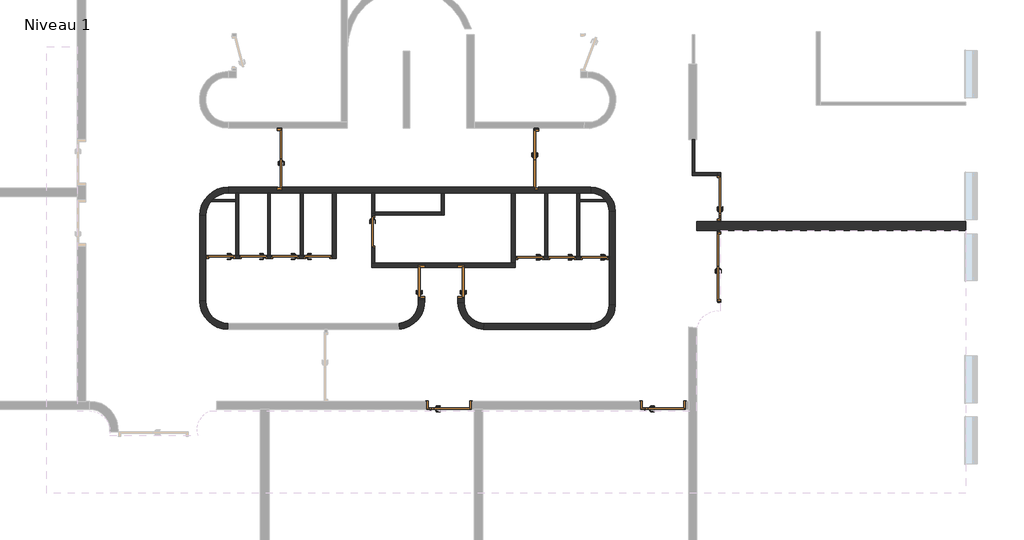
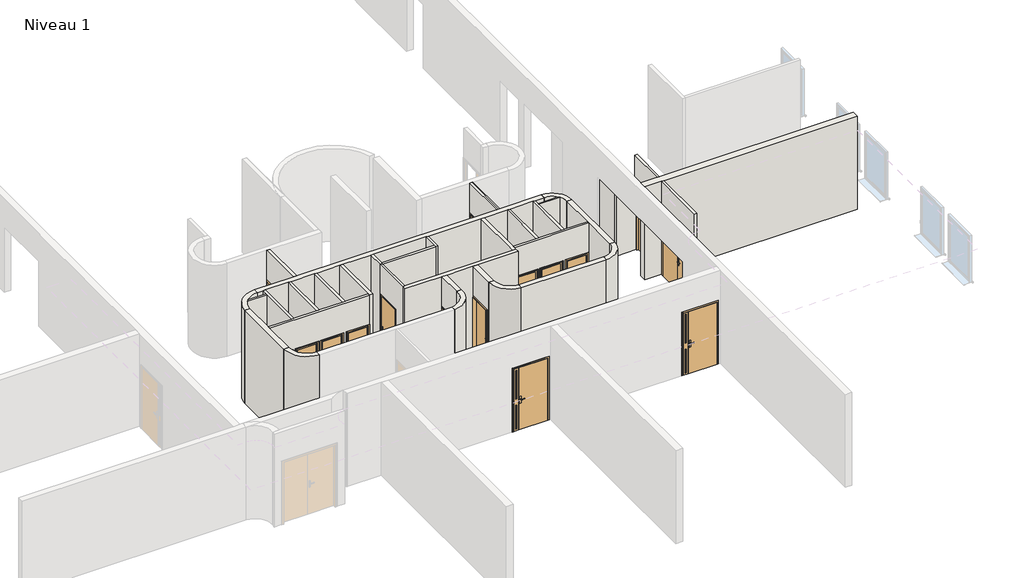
# One storey, part 2 of 5: 34 walls, 16 doors.
"""IFC4 building model written with IfcOpenShell, lengths in millimetres."""

from ifc_helpers import new_model, si_unit, point, frame, frame_2d, origin, place, context, project, spatial, polyline, circle_curve, trimmed, segment, composite_curve, outline, extrude, faceted_brep, transform, mapped, element, save
from ifc_brep_helpers import plane_surface, revolved_surface, advanced_brep
from components import door_1f832047, door_0234ae46, door_bff29abf, door_50a5e481, door_d545ad62, door_1_10m_x_2_04m_5cb44dee, door_1_10m_x_2_04m_3b420d45, double_r_1_43m_x_2_04m_c23811d4, double_r_1_63m_x_2_04m_f0196d8f

model = new_model("IFC4")

# Units and contexts
model_context = context("Model", 3, world=origin())
ifc_project = project(units=[si_unit("LENGTHUNIT", "METRE", prefix="MILLI")], contexts=[model_context])

# Site, building, storey
site = spatial("IfcSite", under=ifc_project)
building = spatial("IfcBuilding", under=site)
storey = spatial("IfcBuildingStorey", under=building, Name="Niveau 1", Elevation=4121.8727639)

# Doors
placement = place(None, origin())
door_shape = door_1f832047(model_context)
element("IfcDoor", 1, ObjectType="@_Int. Simple : @_PP (0.73m x 2.04m)", at=placement, inside=storey, context=model_context, shape_type="MappedRepresentation", body=[
    mapped(door_shape, transform((-9534.4059889, -11067.9401837, 4121.8727639), x_axis=(0.0, 1.0, 0.0), y_axis=(-1.0, 0.0, 0.0), z_axis=(0.0, 0.0, 1.0))),
])
door_2_shape = door_0234ae46(model_context)
element("IfcDoor", 2, ObjectType="@_Int. Simple : @_PP (0.73m x 2.04m)", at=placement, inside=storey, context=model_context, shape_type="MappedRepresentation", body=[
    mapped(door_2_shape, transform((-11686.951258, -9902.9402048, 4121.8727639), x_axis=(9.914124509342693e-09, -1.0, 0.0), y_axis=(1.0, 9.914124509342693e-09, 0.0), z_axis=(0.0, 0.0, 1.0))),
])
door_3_shape = door_bff29abf(model_context)
element("IfcDoor", 3, ObjectType="@_Int. Simple : @_PP (0.73m x 2.04m)", at=placement, inside=storey, context=model_context, shape_type="MappedRepresentation", body=[
    mapped(door_3_shape, transform((-10502.5633349, -11067.9401837, 4121.8727639), x_axis=(0.0, 1.0, 0.0), y_axis=(-1.0, 0.0, 0.0), z_axis=(0.0, 0.0, 1.0))),
])
door_4_shape = door_50a5e481(model_context)
element("IfcDoor", 4, ObjectType="@_Int. Simple : @_PP (0.63m x 2.04m)", at=placement, inside=storey, context=model_context, shape_type="MappedRepresentation", body=[
    mapped(door_4_shape, transform((-7874.989882, -10511.5679843, 4121.8727639), x_axis=(-1.0, 0.0, 0.0), y_axis=(0.0, -1.0, 0.0), z_axis=(0.0, 0.0, 1.0))),
])
element("IfcDoor", 5, ObjectType="@_Int. Simple : @_PP (0.63m x 2.04m)", at=placement, inside=storey, context=model_context, shape_type="MappedRepresentation", body=[
    mapped(door_4_shape, transform((-7094.0106611, -10511.5679843, 4121.8727639), x_axis=(-1.0, 0.0, 0.0), y_axis=(0.0, -1.0, 0.0), z_axis=(0.0, 0.0, 1.0))),
])
element("IfcDoor", 6, ObjectType="@_Int. Simple : @_PP (0.63m x 2.04m)", at=placement, inside=storey, context=model_context, shape_type="MappedRepresentation", body=[
    mapped(door_4_shape, transform((-6293.9999175, -10511.5679843, 4121.8727639), x_axis=(-1.0, 0.0, 0.0), y_axis=(0.0, -1.0, 0.0), z_axis=(0.0, 0.0, 1.0))),
])
element("IfcDoor", 7, ObjectType="@_Int. Simple : @_PP (0.63m x 2.04m)", at=placement, inside=storey, context=model_context, shape_type="MappedRepresentation", body=[
    mapped(door_4_shape, transform((-15459.9931353, -10489.7074645, 4121.8727639), x_axis=(-1.0, 0.0, 0.0), y_axis=(0.0, -1.0, 0.0), z_axis=(0.0, 0.0, 1.0))),
])
element("IfcDoor", 8, ObjectType="@_Int. Simple : @_PP (0.63m x 2.04m)", at=placement, inside=storey, context=model_context, shape_type="MappedRepresentation", body=[
    mapped(door_4_shape, transform((-14664.2475761, -10489.7074645, 4121.8727639), x_axis=(-1.0, 0.0, 0.0), y_axis=(0.0, -1.0, 0.0), z_axis=(0.0, 0.0, 1.0))),
])
element("IfcDoor", 9, ObjectType="@_Int. Simple : @_PP (0.63m x 2.04m)", at=placement, inside=storey, context=model_context, shape_type="MappedRepresentation", body=[
    mapped(door_4_shape, transform((-13884.4973372, -10489.7074645, 4121.8727639), x_axis=(-1.0, 0.0, 0.0), y_axis=(0.0, -1.0, 0.0), z_axis=(0.0, 0.0, 1.0))),
])
door_5_shape = door_d545ad62(model_context)
element("IfcDoor", 10, ObjectType="@_Int. Simple : @_PP (0.63m x 2.04m)", at=placement, inside=storey, context=model_context, shape_type="MappedRepresentation", body=[
    mapped(door_5_shape, transform((-13012.8227922, -10489.7074645, 4121.8727639), x_axis=(1.0, 0.0, 0.0), y_axis=(0.0, 1.0, 0.0), z_axis=(0.0, 0.0, 1.0))),
])
door_1_10m_x_2_04m_shape = door_1_10m_x_2_04m_5cb44dee(model_context)
element("IfcDoor", 11, ObjectType="Tierce  160 : 1.10m x 2.04m", at=placement, inside=storey, context=model_context, shape_type="MappedRepresentation", body=[
    mapped(door_1_10m_x_2_04m_shape, transform((-3200.019318, -9043.749432, 4121.8727639), x_axis=(0.0, -1.0, 0.0), y_axis=(1.0, 0.0, 0.0), z_axis=(0.0, 0.0, 1.0))),
])
door_1_10m_x_2_04m_2_shape = door_1_10m_x_2_04m_3b420d45(model_context)
element("IfcDoor", 12, ObjectType="Tierce  160 : 1.10m x 2.04m", at=placement, inside=storey, context=model_context, shape_type="MappedRepresentation", body=[
    mapped(door_1_10m_x_2_04m_2_shape, transform((-4573.9891744, -14129.1151398, 4121.8727639), x_axis=(-1.0, 0.0, 0.0), y_axis=(0.0, -1.0, 0.0), z_axis=(0.0, 0.0, 1.0))),
])
element("IfcDoor", 13, ObjectType="Tierce  160 : 1.10m x 2.04m", at=placement, inside=storey, context=model_context, shape_type="MappedRepresentation", body=[
    mapped(door_1_10m_x_2_04m_2_shape, transform((-9828.9891732, -14129.1151398, 4121.8727639), x_axis=(-1.0, 0.0, 0.0), y_axis=(0.0, -1.0, 0.0), z_axis=(0.0, 0.0, 1.0))),
])
double_r_1_43m_x_2_04m_shape = double_r_1_43m_x_2_04m_c23811d4(model_context)
element("IfcDoor", 14, ObjectType="Double (R) : 1.43m x 2.04m", at=placement, inside=storey, context=model_context, shape_type="MappedRepresentation", body=[
    mapped(double_r_1_43m_x_2_04m_shape, transform((-13983.9891737, -8079.6056823, 4121.8727639), x_axis=(0.0, -1.0, 0.0), y_axis=(1.0, 0.0, 0.0), z_axis=(0.0, 0.0, 1.0))),
])
element("IfcDoor", 15, ObjectType="Double (R) : 1.43m x 2.04m", at=placement, inside=storey, context=model_context, shape_type="MappedRepresentation", body=[
    mapped(double_r_1_43m_x_2_04m_shape, transform((-7683.9891738, -8093.3556823, 4121.8727639), x_axis=(0.0, 1.0, 0.0), y_axis=(-1.0, 0.0, 0.0), z_axis=(0.0, 0.0, 1.0))),
])
double_r_1_63m_x_2_04m_shape = double_r_1_63m_x_2_04m_f0196d8f(model_context)
element("IfcDoor", 16, ObjectType="Double (R) : 1.63m x 2.04m", at=placement, inside=storey, context=model_context, shape_type="MappedRepresentation", body=[
    mapped(double_r_1_63m_x_2_04m_shape, transform((-3200.019318, -10727.0853638, 4121.8727639), x_axis=(0.0, -1.0, 0.0), y_axis=(1.0, 0.0, 0.0), z_axis=(0.0, 0.0, 1.0))),
])

# Walls
element("IfcWall", 17, ObjectType="@_Générique - Int. 150 mm", at=placement, inside=storey, context=model_context, shape_type="Brep", body=[
    faceted_brep([(-5893.989169, -9371.2578601, 4121.8727639), (-5893.989169, -10476.5679843, 4121.8727639), (-5893.989169, -10546.5679843, 4121.8727639), (-5893.9891691, -11669.1151368, 4121.8727639), (-5893.9891691, -11669.1151368, 7167.3082742), (-5893.989169, -10546.5679843, 7167.3082742), (-5893.989169, -10476.5679843, 7167.3082742), (-5893.989169, -9371.2578601, 7167.3082742), (-5743.989169, -9371.2578601, 4121.8727639), (-5743.989169, -9371.2578601, 7167.3082742), (-5743.9891691, -11669.1151368, 7167.3082742), (-5743.9891691, -11669.1151368, 4121.8727639)], [[[0, 1, 2, 3, 4, 5, 6, 7]], [[8, 9, 10, 11]], [[3, 2, 1, 0, 8, 11]], [[4, 3, 11, 10]], [[0, 7, 9, 8]], [[7, 6, 5, 4, 10, 9]]]),
])
element("IfcWall", 18, ObjectType="@_Générique - Int. 150 mm", at=placement, inside=storey, context=model_context, shape_type="Brep", body=[
    faceted_brep([(-15943.9891684, -9471.2578591, 4121.8727639), (-15943.9891684, -11569.1151367, 4121.8727639), (-15943.9891684, -11569.1151367, 7167.3082742), (-15943.9891684, -9471.2578591, 7167.3082742), (-15793.9891684, -9471.2578591, 4121.8727639), (-15793.9891684, -9471.2578591, 7167.3082742), (-15793.9891684, -10454.7074645, 7167.3082742), (-15793.9891684, -10524.7074645, 7167.3082742), (-15793.9891684, -11569.1151367, 7167.3082742), (-15793.9891684, -11569.1151367, 4121.8727639), (-15793.9891684, -10524.7074645, 4121.8727639), (-15793.9891684, -10454.7074645, 4121.8727639)], [[[0, 1, 2, 3]], [[4, 5, 6, 7, 8, 9, 10, 11]], [[1, 0, 4, 11, 10, 9]], [[2, 1, 9, 8]], [[0, 3, 5, 4]], [[3, 2, 8, 7, 6, 5]]]),
])
element("IfcWall", 19, ObjectType="@_Générique - Int. 100 mm", at=placement, inside=storey, context=model_context, shape_type="SweptSolid", body=[
    extrude(outline(polyline([(-8771.2578592, 7167.3082742), (-7329.1151392, 7167.3082742), (-7329.1151392, 4121.8727639), (-7329.6056823, 4121.8727639), (-7329.6056823, 6196.8727639), (-8771.2578592, 6196.8727639), (-8771.2578592, 7167.3082742)])), frame((-14033.9891737, 0.0, 0.0), z_axis=(1.0, 0.0, 0.0), x_axis=(0.0, 1.0, 0.0)), (0.0, 0.0, 1.0), 100.0),
])
element("IfcWall", 20, ObjectType="@_Générique - Int. 100 mm", at=placement, inside=storey, context=model_context, shape_type="Brep", body=[
    faceted_brep([(-7733.9891738, -8771.2578604, 7167.3082742), (-7733.9891738, -7329.1151397, 7167.3082742), (-7733.9891738, -7329.1151397, 4121.8727639), (-7733.9891738, -7343.3556823, 4121.8727639), (-7733.9891738, -7343.3556823, 6196.8727639), (-7733.9891738, -8771.2578604, 6196.8727639), (-7633.9891738, -7329.1151397, 4121.8727639), (-7633.9891738, -7329.1151397, 7167.3082742), (-7633.9891738, -8771.2578604, 7167.3082742), (-7633.9891738, -8771.2578604, 6196.8727639), (-7633.9891738, -7343.3556823, 6196.8727639), (-7633.9891738, -7343.3556823, 4121.8727639), (-7675.9891738, -8771.2578604, 7167.3082742), (-7675.9891738, -7329.1151397, 7167.3082742)], [[[0, 1, 2, 3, 4, 5]], [[6, 7, 8, 9, 10, 11]], [[2, 6, 11, 3]], [[12, 0, 5, 9, 8]], [[2, 1, 13, 7, 6]], [[10, 4, 3, 11]], [[4, 10, 9, 5]], [[1, 0, 12, 13]], [[8, 7, 13, 12]]]),
])
element("IfcWall", 21, ObjectType="@_Générique - Int. 70 mm", at=placement, inside=storey, context=model_context, shape_type="SolidModel", body=[
    faceted_brep([(-3235.019318, -8418.749432, 7167.3082742), (-3235.019318, -8418.749432, 6221.8727639), (-3235.019318, -8418.749432, 4121.8727639), (-3235.019318, -8483.749432, 4121.8727639), (-3235.019318, -8483.749432, 6196.8727639), (-3235.019318, -9603.749432, 6196.8727639), (-3235.019318, -9603.749432, 4121.8727639), (-3235.019318, -9613.749432, 4121.8727639), (-3235.019318, -9613.749432, 7167.3082742), (-3165.019318, -8418.749432, 4121.8727639), (-3165.019318, -8418.749432, 7167.3082742), (-3165.019318, -9613.749432, 7167.3082742), (-3165.019318, -9613.749432, 4121.8727639), (-3165.019318, -9603.749432, 4121.8727639), (-3165.019318, -9603.749432, 6196.8727639), (-3165.019318, -8483.749432, 6196.8727639), (-3165.019318, -8483.749432, 4121.8727639)], [[[0, 1, 2, 3, 4, 5, 6, 7, 8]], [[9, 10, 11, 12, 13, 14, 15, 16]], [[2, 9, 16, 3]], [[6, 13, 12, 7]], [[10, 0, 8, 11]], [[2, 1, 0, 10, 9]], [[8, 7, 12, 11]], [[5, 14, 13, 6]], [[14, 5, 4, 15]], [[15, 4, 3, 16]]]),
    advanced_brep(
    [(-3235.019318, -11606.8648587, 4121.8727639), (-3235.019318, -11606.8648587, 7167.3082742), (-3235.019318, -9833.749432, 7167.3082742), (-3235.019318, -9833.749432, 4121.8727639), (-3235.019318, -9877.0853638, 4121.8727639), (-3235.019318, -9877.0853638, 6196.8727639), (-3235.019318, -11577.0853638, 6196.8727639), (-3235.019318, -11577.0853638, 4121.8727639), (-3165.019318, -11608.8816811, 7167.3082742), (-3165.019318, -11608.8816811, 4121.8727639), (-3165.019318, -11577.0853638, 4121.8727639), (-3165.019318, -11577.0853638, 6196.8727639), (-3165.019318, -9877.0853638, 6196.8727639), (-3165.019318, -9877.0853638, 4121.8727639), (-3165.019318, -9833.749432, 4121.8727639), (-3165.019318, -9833.749432, 7167.3082742)],
    [
        (0, 1),
        (1, 2),
        (2, 3),
        (3, 4),
        (4, 5),
        (5, 6),
        (6, 7),
        (7, 0),
        (8, 9),
        (9, 10),
        (10, 11),
        (11, 12),
        (12, 13),
        (13, 14),
        (14, 15),
        (15, 8),
        (9, 0, circle_curve(frame((-3221.1378545, -12340.8568076, 4121.8727639), z_axis=(0.0, 0.0, 1.0), x_axis=(0.40959070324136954, 0.912269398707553, 0.0)), 734.1232022)),
        (7, 10),
        (13, 4),
        (3, 14),
        (1, 8, circle_curve(frame((-3221.1378545, -12340.8568076, 7167.3082742), z_axis=(0.0, 0.0, -1.0), x_axis=(0.40959070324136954, 0.912269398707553, 0.0)), 734.1232022)),
        (15, 2),
        (6, 11),
        (5, 12),
    ],
    [
        plane_surface(frame((-3235.019318, -15771.0969841, 4121.8727639), z_axis=(-1.0, 0.0, 0.0), x_axis=(0.0, -1.0, 0.0))),
        plane_surface(frame((-3165.019318, -15771.0969841, 4121.8727639), z_axis=(1.0, 0.0, 0.0), x_axis=(0.0, 1.0, 0.0))),
        plane_surface(frame((-3235.019318, -8453.749432, 4121.8727639), z_axis=(0.0, 0.0, -1.0), x_axis=(1.0, 0.0, 0.0))),
        plane_surface(frame((-25618.9891748, 10570.8848592, 7167.3082742), z_axis=(0.0, 0.0, 1.0), x_axis=(0.0, 1.0, 0.0))),
        plane_surface(frame((2194.1648553, -9833.749433, 4121.8727639), z_axis=(1.8719055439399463e-10, 1.0, 0.0), x_axis=(1.0, -1.8719055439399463e-10, 0.0))),
        revolved_surface(polyline([(-2920.4478158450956, -11671.138675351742, 7167.308274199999), (-2920.4478158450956, -11671.138675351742, 4121.8727639)]), (-3221.1378545, -12340.8568076, 4121.8727639), (0.0, 0.0, 0.9999999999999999)),
        plane_surface(frame((-4759.019318, -11577.0853638, 4121.8727639), z_axis=(0.0, 1.0, 0.0), x_axis=(1.0, 0.0, 0.0))),
        plane_surface(frame((-4759.019318, -11577.0853638, 6196.8727639), z_axis=(0.0, 0.0, -1.0), x_axis=(1.0, 0.0, 0.0))),
        plane_surface(frame((-4759.019318, -9877.0853638, 6196.8727639), z_axis=(0.0, -1.0, 0.0), x_axis=(1.0, 0.0, 0.0))),
    ],
    [
        (0, [[1, 2, 3, 4, 5, 6, 7, 8]]),
        (1, [[9, 10, 11, 12, 13, 14, 15, 16]]),
        (2, [[17, -8, 18, -10]]),
        (2, [[19, -4, 20, -14]]),
        (3, [[21, -16, 22, -2]]),
        (4, [[-3, -22, -15, -20]]),
        (5, [[-1, -17, -9, -21]]),
        (6, [[23, -11, -18, -7]]),
        (7, [[-23, -6, 24, -12]]),
        (8, [[-24, -5, -19, -13]]),
    ],
),
])
element("IfcWall", 22, ObjectType="@_Générique - Int. 120 mm", at=placement, inside=storey, context=model_context, shape_type="Brep", body=[
    faceted_brep([(-8204.989882, -10632.9401837, 4121.8727639), (-8304.989882, -10632.9401837, 4121.8727639), (-11651.9512507, -10632.9401837, 4121.8727639), (-11721.9512507, -10632.9401837, 4121.8727639), (-11721.9512507, -10632.9401837, 7167.3082742), (-11651.9512507, -10632.9401837, 7167.3082742), (-8304.989882, -10632.9401837, 7167.3082742), (-8204.989882, -10632.9401837, 7167.3082742), (-8204.989882, -10752.9401837, 7167.3082742), (-9459.4059889, -10752.9401837, 7167.3082742), (-9609.4059889, -10752.9401837, 7167.3082742), (-10427.5633349, -10752.9401837, 7167.3082742), (-10577.5633349, -10752.9401837, 7167.3082742), (-11721.9512495, -10752.9401837, 7167.3082742), (-11721.9512495, -10752.9401837, 4121.8727639), (-10577.5633349, -10752.9401837, 4121.8727639), (-10577.5633349, -10752.9401837, 6196.8727639), (-10427.5633349, -10752.9401837, 6196.8727639), (-10427.5633349, -10752.9401837, 4121.8727639), (-9609.4059889, -10752.9401837, 4121.8727639), (-9609.4059889, -10752.9401837, 6196.8727639), (-9459.4059889, -10752.9401837, 6196.8727639), (-9459.4059889, -10752.9401837, 4121.8727639), (-8204.989882, -10752.9401837, 4121.8727639), (-9459.4059889, -10702.9401837, 4121.8727639), (-9609.4059889, -10702.9401837, 4121.8727639), (-10427.5633349, -10702.9401837, 4121.8727639), (-10577.5633349, -10702.9401837, 4121.8727639), (-10427.5633349, -10702.9401837, 6196.8727639), (-10577.5633349, -10702.9401837, 6196.8727639), (-9459.4059889, -10702.9401837, 6196.8727639), (-9609.4059889, -10702.9401837, 6196.8727639)], [[[0, 1, 2, 3, 4, 5, 6, 7]], [[8, 9, 10, 11, 12, 13, 14, 15, 16, 17, 18, 19, 20, 21, 22, 23]], [[3, 2, 1, 0, 23, 22, 24, 25, 19, 18, 26, 27, 15, 14]], [[7, 6, 5, 4, 13, 12, 11, 10, 9, 8]], [[0, 7, 8, 23]], [[28, 26, 18, 17]], [[27, 29, 16, 15]], [[29, 28, 17, 16]], [[30, 24, 22, 21]], [[25, 31, 20, 19]], [[31, 30, 21, 20]], [[24, 30, 31, 25]], [[26, 28, 29, 27]], [[4, 3, 14, 13]]]),
])
element("IfcWall", 23, ObjectType="@_Générique - Int. 70 mm", at=placement, inside=storey, context=model_context, shape_type="Brep", body=[
    faceted_brep([(-11651.9512627, -9420.8638268, 4121.8727639), (-11651.9512627, -9420.8638268, 7167.3082742), (-11651.9512624, -9455.8638272, 7167.3082742), (-11651.9512507, -10632.9401837, 7167.3082742), (-11651.9512507, -10632.9401837, 4121.8727639), (-11651.9512543, -10267.9402045, 4121.8727639), (-11651.9512543, -10267.9402045, 6196.8727639), (-11651.9512623, -9467.9402045, 6196.8727639), (-11651.9512623, -9467.9402045, 4121.8727639), (-11651.9512624, -9455.8638272, 4121.8727639), (-11721.9512627, -9420.8638275, 7167.3082742), (-11721.9512627, -9420.8638275, 4121.8727639), (-11721.9512623, -9467.9402052, 4121.8727639), (-11721.9512623, -9467.9402052, 6196.8727639), (-11721.9512543, -10267.9402052, 6196.8727639), (-11721.9512543, -10267.9402052, 4121.8727639), (-11721.9512507, -10632.9401837, 4121.8727639), (-11721.9512507, -10632.9401837, 7167.3082742)], [[[0, 1, 2, 3, 4, 5, 6, 7, 8, 9]], [[10, 11, 12, 13, 14, 15, 16, 17]], [[11, 0, 9, 8, 12]], [[4, 16, 15, 5]], [[1, 0, 11, 10]], [[3, 2, 1, 10, 17]], [[4, 3, 17, 16]], [[14, 6, 5, 15]], [[7, 13, 12, 8]], [[13, 7, 6, 14]]]),
])
element("IfcWall", 24, ObjectType="@_Générique - Int. 100 mm", at=placement, inside=storey, context=model_context, shape_type="Brep", body=[
    faceted_brep([(-8204.989882, -10632.9401837, 4121.8727639), (-8204.989882, -10546.5679843, 4121.8727639), (-8204.989882, -10476.5679843, 4121.8727639), (-8204.989882, -8921.2578603, 4121.8727639), (-8204.989882, -8921.2578603, 7167.3082742), (-8204.989882, -10476.5679843, 7167.3082742), (-8204.989882, -10546.5679843, 7167.3082742), (-8204.989882, -10632.9401837, 7167.3082742), (-8304.989882, -10632.9401837, 4121.8727639), (-8304.989882, -10632.9401837, 7167.3082742), (-8304.989882, -8921.2578603, 7167.3082742), (-8304.989882, -8921.2578603, 4121.8727639)], [[[0, 1, 2, 3, 4, 5, 6, 7]], [[8, 9, 10, 11]], [[3, 2, 1, 0, 8, 11]], [[7, 6, 5, 4, 10, 9]], [[0, 7, 9, 8]], [[4, 3, 11, 10]]]),
])
element("IfcWall", 25, ObjectType="@_Générique - Int. 100 mm", at=placement, inside=storey, context=model_context, shape_type="Brep", body=[
    faceted_brep([(-12590.898471, -10524.7074645, 4121.8727639), (-12590.8984869, -8921.2578595, 4121.8727639), (-12590.8984869, -8921.2578595, 7167.3082742), (-12590.898471, -10524.7074645, 7167.3082742), (-12690.898471, -10524.7074645, 4121.8727639), (-12690.898471, -10524.7074645, 7167.3082742), (-12690.8984717, -10454.7074645, 7167.3082742), (-12690.8984869, -8921.2578595, 7167.3082742), (-12690.8984869, -8921.2578595, 4121.8727639), (-12690.8984717, -10454.7074645, 4121.8727639)], [[[0, 1, 2, 3]], [[4, 5, 6, 7, 8, 9]], [[1, 0, 4, 9, 8]], [[3, 2, 7, 6, 5]], [[2, 1, 8, 7]], [[0, 3, 5, 4]]]),
])
element("IfcWall", 26, ObjectType="@_Générique - Int. 70 mm", at=placement, inside=storey, context=model_context, shape_type="SweptSolid", body=[
    extrude(outline(polyline([(-7478.5169073, -10476.5679843), (-7478.5169073, -8921.2578605), (-7408.5169073, -8921.2578605), (-7408.5169073, -10476.5679843), (-7478.5169073, -10476.5679843)])), frame((0.0, 0.0, 4121.8727639), z_axis=(0.0, 0.0, 1.0), x_axis=(1.0, 0.0, 0.0)), (0.0, 0.0, 1.0), 3045.4355104),
])
element("IfcWall", 27, ObjectType="@_Générique - Int. 70 mm", at=placement, inside=storey, context=model_context, shape_type="SweptSolid", body=[
    extrude(outline(polyline([(-6694.0106611, -10476.5679843), (-6694.0106611, -8921.2578606), (-6624.0106611, -8921.2578606), (-6624.0106611, -10476.5679843), (-6694.0106611, -10476.5679843)])), frame((0.0, 0.0, 4121.8727639), z_axis=(0.0, 0.0, 1.0), x_axis=(1.0, 0.0, 0.0)), (0.0, 0.0, 1.0), 3045.4355104),
])
element("IfcWall", 28, ObjectType="@_Générique - Int. 70 mm", at=placement, inside=storey, context=model_context, shape_type="Brep", body=[
    faceted_brep([(-5893.989169, -10546.5679843, 7167.3082742), (-8204.989882, -10546.5679843, 7167.3082742), (-8204.989882, -10546.5679843, 4121.8727639), (-8189.989882, -10546.5679843, 4121.8727639), (-8189.989882, -10546.5679843, 6196.8727639), (-7489.989882, -10546.5679843, 6196.8727639), (-7489.989882, -10546.5679843, 4121.8727639), (-7409.0106611, -10546.5679843, 4121.8727639), (-7409.0106611, -10546.5679843, 6196.8727639), (-6709.0106611, -10546.5679843, 6196.8727639), (-6709.0106611, -10546.5679843, 4121.8727639), (-6608.9999175, -10546.5679843, 4121.8727639), (-6608.9999175, -10546.5679843, 6196.8727639), (-5908.9999175, -10546.5679843, 6196.8727639), (-5908.9999175, -10546.5679843, 4121.8727639), (-5893.989169, -10546.5679843, 4121.8727639), (-8204.989882, -10476.5679843, 7167.3082742), (-7478.5169073, -10476.5679843, 7167.3082742), (-7408.5169073, -10476.5679843, 7167.3082742), (-6694.0106611, -10476.5679843, 7167.3082742), (-6624.0106611, -10476.5679843, 7167.3082742), (-5893.989169, -10476.5679843, 7167.3082742), (-5893.989169, -10476.5679843, 4121.8727639), (-5908.9999175, -10476.5679843, 4121.8727639), (-5908.9999175, -10476.5679843, 6196.8727639), (-6608.9999175, -10476.5679843, 6196.8727639), (-6608.9999175, -10476.5679843, 4121.8727639), (-6624.0106611, -10476.5679843, 4121.8727639), (-6694.0106611, -10476.5679843, 4121.8727639), (-6709.0106611, -10476.5679843, 4121.8727639), (-6709.0106611, -10476.5679843, 6196.8727639), (-7409.0106611, -10476.5679843, 6196.8727639), (-7409.0106611, -10476.5679843, 4121.8727639), (-7478.5169073, -10476.5679843, 4121.8727639), (-7489.989882, -10476.5679843, 4121.8727639), (-7489.989882, -10476.5679843, 6196.8727639), (-8189.989882, -10476.5679843, 6196.8727639), (-8189.989882, -10476.5679843, 4121.8727639), (-8204.989882, -10476.5679843, 4121.8727639)], [[[0, 1, 2, 3, 4, 5, 6, 7, 8, 9, 10, 11, 12, 13, 14, 15]], [[16, 17, 18, 19, 20, 21, 22, 23, 24, 25, 26, 27, 28, 29, 30, 31, 32, 33, 34, 35, 36, 37, 38]], [[2, 38, 37, 3]], [[6, 34, 33, 32, 7]], [[10, 29, 28, 27, 26, 11]], [[22, 15, 14, 23]], [[1, 0, 21, 20, 19, 18, 17, 16]], [[2, 1, 16, 38]], [[0, 15, 22, 21]], [[4, 3, 37, 36]], [[5, 4, 36, 35]], [[6, 5, 35, 34]], [[8, 7, 32, 31]], [[9, 8, 31, 30]], [[10, 9, 30, 29]], [[25, 12, 11, 26]], [[12, 25, 24, 13]], [[13, 24, 23, 14]]]),
])
element("IfcWall", 29, ObjectType="@_Générique - Int. 70 mm", at=placement, inside=storey, context=model_context, shape_type="Brep", body=[
    faceted_brep([(-10015.0633349, -8921.25786, 4121.8727639), (-10015.0633349, -9385.8638272, 4121.8727639), (-10015.0633349, -9455.8638272, 4121.8727639), (-10015.0633349, -9455.8638272, 7167.3082742), (-10015.0633349, -9385.8638272, 7167.3082742), (-10015.0633349, -8921.25786, 7167.3082742), (-9945.0633349, -8921.25786, 4121.8727639), (-9945.0633349, -8921.25786, 7167.3082742), (-9945.0633349, -9455.8638272, 7167.3082742), (-9945.0633349, -9455.8638272, 4121.8727639)], [[[0, 1, 2, 3, 4, 5]], [[6, 7, 8, 9]], [[2, 1, 0, 6, 9]], [[5, 4, 3, 8, 7]], [[0, 5, 7, 6]], [[3, 2, 9, 8]]]),
])
element("IfcWall", 30, ObjectType="@_Générique - Int. 70 mm", at=placement, inside=storey, context=model_context, shape_type="Brep", body=[
    faceted_brep([(-11651.9512624, -9455.8638272, 4121.8727639), (-10015.0633349, -9455.8638272, 4121.8727639), (-10015.0633349, -9455.8638272, 7167.3082742), (-11651.9512624, -9455.8638272, 7167.3082742), (-11651.9512631, -9385.8638272, 4121.8727639), (-11651.9512631, -9385.8638272, 7167.3082742), (-10015.0633349, -9385.8638272, 7167.3082742), (-10015.0633349, -9385.8638272, 4121.8727639), (-11651.9512627, -9420.8638268, 4121.8727639), (-11651.9512627, -9420.8638268, 7167.3082742)], [[[0, 1, 2, 3]], [[4, 5, 6, 7]], [[1, 0, 8, 4, 7]], [[3, 2, 6, 5, 9]], [[2, 1, 7, 6]], [[0, 3, 9, 5, 4, 8]]]),
])
element("IfcWall", 31, ObjectType="@_Générique - Int. 70 mm", at=placement, inside=storey, context=model_context, shape_type="Brep", body=[
    faceted_brep([(-14209.2475617, -10454.7074645, 4121.8727639), (-14209.2475769, -8921.2578592, 4121.8727639), (-14209.2475769, -8921.2578592, 7167.3082742), (-14209.2475617, -10454.7074645, 7167.3082742), (-14279.2475617, -10454.7074645, 4121.8727639), (-14279.2475617, -10454.7074645, 6196.8727639), (-14279.2475617, -10454.7074645, 7167.3082742), (-14279.2475769, -8921.2578592, 7167.3082742), (-14279.2475769, -8921.2578592, 4121.8727639)], [[[0, 1, 2, 3]], [[4, 5, 6, 7, 8]], [[1, 0, 4, 8]], [[3, 2, 7, 6]], [[2, 1, 8, 7]], [[0, 3, 6, 5, 4]]]),
])
element("IfcWall", 32, ObjectType="@_Générique - Int. 70 mm", at=placement, inside=storey, context=model_context, shape_type="Brep", body=[
    faceted_brep([(-12690.898471, -10524.7074645, 7167.3082742), (-15793.9891684, -10524.7074645, 7167.3082742), (-15793.9891684, -10524.7074645, 4121.8727639), (-15774.9931353, -10524.7074645, 4121.8727639), (-15774.9931353, -10524.7074645, 6196.8727639), (-15074.9931353, -10524.7074645, 6196.8727639), (-15074.9931353, -10524.7074645, 4121.8727639), (-14979.2475761, -10524.7074645, 4121.8727639), (-14979.2475761, -10524.7074645, 6196.8727639), (-14279.2475761, -10524.7074645, 6196.8727639), (-14279.2475761, -10524.7074645, 4121.8727639), (-14199.4973372, -10524.7074645, 4121.8727639), (-14199.4973372, -10524.7074645, 6196.8727639), (-13499.4973372, -10524.7074645, 6196.8727639), (-13499.4973372, -10524.7074645, 4121.8727639), (-13397.8227922, -10524.7074645, 4121.8727639), (-13397.8227922, -10524.7074645, 6196.8727639), (-12697.8227922, -10524.7074645, 6196.8727639), (-12697.8227922, -10524.7074645, 4121.8727639), (-12690.898471, -10524.7074645, 4121.8727639), (-15793.9891684, -10454.7074645, 7167.3082742), (-15059.7470838, -10454.7074645, 7167.3082742), (-14989.7470838, -10454.7074645, 7167.3082742), (-14279.2475617, -10454.7074645, 7167.3082742), (-14209.2475617, -10454.7074645, 7167.3082742), (-13474.7470838, -10454.7074645, 7167.3082742), (-13404.7470838, -10454.7074645, 7167.3082742), (-12690.8984717, -10454.7074645, 7167.3082742), (-12690.8984717, -10454.7074645, 4121.8727639), (-12697.8227922, -10454.7074645, 4121.8727639), (-12697.8227922, -10454.7074645, 6196.8727639), (-13397.8227922, -10454.7074645, 6196.8727639), (-13397.8227922, -10454.7074645, 4121.8727639), (-13404.7470838, -10454.7074645, 4121.8727639), (-13474.7470838, -10454.7074645, 4121.8727639), (-13499.4973372, -10454.7074645, 4121.8727639), (-13499.4973372, -10454.7074645, 6196.8727639), (-14199.4973372, -10454.7074645, 6196.8727639), (-14199.4973372, -10454.7074645, 4121.8727639), (-14209.2475617, -10454.7074645, 4121.8727639), (-14279.2475761, -10454.7074645, 4121.8727639), (-14279.2475761, -10454.7074645, 6196.8727639), (-14979.2475761, -10454.7074645, 6196.8727639), (-14979.2475761, -10454.7074645, 4121.8727639), (-14989.7470838, -10454.7074645, 4121.8727639), (-15059.7470838, -10454.7074645, 4121.8727639), (-15074.9931353, -10454.7074645, 4121.8727639), (-15074.9931353, -10454.7074645, 6196.8727639), (-15774.9931353, -10454.7074645, 6196.8727639), (-15774.9931353, -10454.7074645, 4121.8727639), (-15793.9891684, -10454.7074645, 4121.8727639)], [[[0, 1, 2, 3, 4, 5, 6, 7, 8, 9, 10, 11, 12, 13, 14, 15, 16, 17, 18, 19]], [[20, 21, 22, 23, 24, 25, 26, 27, 28, 29, 30, 31, 32, 33, 34, 35, 36, 37, 38, 39, 40, 41, 42, 43, 44, 45, 46, 47, 48, 49, 50]], [[28, 19, 18, 29]], [[6, 46, 45, 44, 43, 7]], [[10, 40, 39, 38, 11]], [[14, 35, 34, 33, 32, 15]], [[2, 50, 49, 3]], [[1, 0, 27, 26, 25, 24, 23, 22, 21, 20]], [[2, 1, 20, 50]], [[0, 19, 28, 27]], [[48, 4, 3, 49]], [[4, 48, 47, 5]], [[5, 47, 46, 6]], [[42, 8, 7, 43]], [[8, 42, 41, 9]], [[9, 41, 40, 10]], [[12, 11, 38, 37]], [[13, 12, 37, 36]], [[14, 13, 36, 35]], [[17, 30, 29, 18]], [[30, 17, 16, 31]], [[31, 16, 15, 32]]]),
])
element("IfcWall", 33, ObjectType="@_Générique - Int. 150 mm", at=placement, inside=storey, context=model_context, shape_type="SweptSolid", body=[
    extrude(outline(composite_curve([segment(polyline([(-11053.2032702, -12269.1151369), (-11059.3852226, -12119.1151369)]), True, "CONTINUOUS"), segment(trimmed(circle_curve(frame_2d((-11105.8851062, -11591.1589258)), 530.0), [point((-11059.3852226, -12119.1151369))], [point((-10577.5633349, -11549.0150535))], True, "CARTESIAN"), True, "CONTINUOUS"), segment(polyline([(-10577.5633349, -11549.0150535), (-10427.5633349, -11543.4140351)]), True, "CONTINUOUS"), segment(trimmed(circle_curve(frame_2d((-11105.8851062, -11591.1589258)), 680.0), [point((-10427.5633349, -11543.4140351))], [point((-11053.2032702, -12269.1151369))], False, "CARTESIAN"), True, "CONTINUOUS")], self_intersect=False)), frame((0.0, 0.0, 4121.8727639), z_axis=(0.0, 0.0, 1.0), x_axis=(1.0, 0.0, 0.0)), (0.0, 0.0, 1.0), 3045.4355104),
])
element("IfcWall", 34, ObjectType="@_Générique - Int. 150 mm", at=placement, inside=storey, context=model_context, shape_type="SweptSolid", body=[
    extrude(outline(composite_curve([segment(trimmed(circle_curve(frame_2d((-8929.2415636, -11591.1589258)), 530.0), [point((-9458.9349587, -11609.1841084))], [point((-8975.7414348, -12119.115138))], True, "CARTESIAN"), True, "CONTINUOUS"), segment(polyline([(-8975.7414348, -12119.115138), (-8981.9233856, -12269.115138)]), True, "CONTINUOUS"), segment(trimmed(circle_curve(frame_2d((-8929.2415636, -11591.1589258)), 680.0), [point((-8981.9233856, -12269.115138))], [point((-9608.8481837, -11614.2855752))], False, "CARTESIAN"), True, "CONTINUOUS"), segment(polyline([(-9608.8481837, -11614.2855752), (-9569.3121062, -11612.9401837), (-9459.4059889, -11612.9401837), (-9459.4059889, -11609.2001373), (-9458.9349587, -11609.1841084)]), True, "CONTINUOUS")], self_intersect=False)), frame((0.0, 0.0, 4121.8727639), z_axis=(0.0, 0.0, 1.0), x_axis=(1.0, 0.0, 0.0)), (0.0, 0.0, 1.0), 3045.4355104),
])
element("IfcWall", 35, ObjectType="@_Générique - Int. 70 mm", at=placement, inside=storey, context=model_context, shape_type="SweptSolid", body=[
    extrude(outline(polyline([(-13404.747099, -8921.2578594), (-13404.7470838, -10454.7074645), (-13474.7470838, -10454.7074645), (-13474.747099, -8921.2578593), (-13404.747099, -8921.2578594)])), frame((0.0, 0.0, 4121.8727639), z_axis=(0.0, 0.0, 1.0), x_axis=(1.0, 0.0, 0.0)), (0.0, 0.0, 1.0), 3045.4355104),
])
element("IfcWall", 36, ObjectType="@_Générique - Int. 70 mm", at=placement, inside=storey, context=model_context, shape_type="SweptSolid", body=[
    extrude(outline(polyline([(-14989.747099, -8921.257859), (-14989.7470838, -10454.7074645), (-15059.7470838, -10454.7074645), (-15059.747099, -8921.257859), (-14989.747099, -8921.257859)])), frame((0.0, 0.0, 4121.8727639), z_axis=(0.0, 0.0, 1.0), x_axis=(1.0, 0.0, 0.0)), (0.0, 0.0, 1.0), 3045.4355104),
])
element("IfcWall", 37, ObjectType="@_Générique - Int. 50 mm", at=placement, inside=storey, context=model_context, shape_type="SweptSolid", body=[
    extrude(outline(composite_curve([segment(polyline([(-5964.9770667, -9128.6680289), (-6624.0106611, -9128.6680289), (-6624.0106611, -9078.6680289), (-6002.0956322, -9078.6680289)]), True, "CONTINUOUS"), segment(trimmed(circle_curve(frame_2d((-6343.9891685, -9371.2578601)), 449.9999994), [point((-6002.0956322, -9078.6680289))], [point((-5964.9770667, -9128.6680289))], False, "CARTESIAN"), True, "CONTINUOUS")], self_intersect=False)), frame((0.0, 0.0, 4121.8727639), z_axis=(0.0, 0.0, 1.0), x_axis=(1.0, 0.0, 0.0)), (0.0, 0.0, 1.0), 3045.4355104),
])
element("IfcWall", 38, ObjectType="@_Générique - Int. 50 mm", at=placement, inside=storey, context=model_context, shape_type="SweptSolid", body=[
    extrude(outline(composite_curve([segment(polyline([(-15059.747097, -9128.6680289), (-15674.2590929, -9128.6680289)]), True, "CONTINUOUS"), segment(trimmed(circle_curve(frame_2d((-15243.9891679, -9471.2578591)), 550.0), [point((-15674.2590929, -9128.6680289))], [point((-15629.1816202, -9078.6680289))], False, "CARTESIAN"), True, "CONTINUOUS"), segment(polyline([(-15629.1816202, -9078.6680289), (-15059.7470975, -9078.6680289), (-15059.747097, -9128.6680289)]), True, "CONTINUOUS")], self_intersect=False)), frame((0.0, 0.0, 4121.8727639), z_axis=(0.0, 0.0, 1.0), x_axis=(1.0, 0.0, 0.0)), (0.0, 0.0, 1.0), 3045.4355104),
])
element("IfcWall", 39, ObjectType="@_Générique - Int. 70 mm", at=placement, inside=storey, context=model_context, shape_type="Brep", body=[
    faceted_brep([(-11651.9512627, -9420.8638268, 4121.8727639), (-11651.9512631, -9385.8638272, 4121.8727639), (-11651.9512677, -8921.2578597, 4121.8727639), (-11651.9512677, -8921.2578597, 7167.3082742), (-11651.9512631, -9385.8638272, 7167.3082742), (-11651.9512627, -9420.8638268, 7167.3082742), (-11721.9512627, -9420.8638275, 4121.8727639), (-11721.9512627, -9420.8638275, 7167.3082742), (-11721.9512677, -8921.2578597, 7167.3082742), (-11721.9512677, -8921.2578597, 4121.8727639)], [[[0, 1, 2, 3, 4, 5]], [[6, 7, 8, 9]], [[2, 1, 0, 6, 9]], [[0, 5, 7, 6]], [[5, 4, 3, 8, 7]], [[3, 2, 9, 8]]]),
])
element("IfcWall", 40, ObjectType="Ext. Voile BA 150", at=placement, inside=storey, context=model_context, shape_type="Brep", body=[
    faceted_brep([(-6343.9891684, -8771.2578607, 4121.8727639), (-7633.9891738, -8771.2578604, 4121.8727639), (-7633.9891738, -8771.2578604, 6196.8727639), (-7733.9891738, -8771.2578604, 6196.8727639), (-7733.9891738, -8771.2578604, 4121.8727639), (-13933.9891737, -8771.2578593, 4121.8727639), (-13933.9891737, -8771.2578593, 6196.8727639), (-14033.9891737, -8771.2578592, 6196.8727639), (-14033.9891737, -8771.2578592, 4121.8727639), (-15243.9891678, -8771.257859, 4121.8727639), (-15243.9891678, -8771.257859, 7167.3082742), (-14048.9891737, -8771.2578592, 7167.3082742), (-14033.9891737, -8771.2578592, 7167.3082742), (-13933.9891737, -8771.2578593, 7167.3082742), (-7733.9891738, -8771.2578604, 7167.3082742), (-7675.9891738, -8771.2578604, 7167.3082742), (-7633.9891738, -8771.2578604, 7167.3082742), (-6343.9891684, -8771.2578607, 7167.3082742), (-15243.9891678, -8921.257859, 4121.8727639), (-15059.747099, -8921.257859, 4121.8727639), (-14989.747099, -8921.257859, 4121.8727639), (-14279.2475769, -8921.2578592, 4121.8727639), (-14209.2475769, -8921.2578592, 4121.8727639), (-13474.747099, -8921.2578593, 4121.8727639), (-13404.747099, -8921.2578594, 4121.8727639), (-12690.8984869, -8921.2578595, 4121.8727639), (-12590.8984869, -8921.2578595, 4121.8727639), (-11721.9512677, -8921.2578597, 4121.8727639), (-11651.9512677, -8921.2578597, 4121.8727639), (-10015.0633349, -8921.25786, 4121.8727639), (-9945.0633349, -8921.25786, 4121.8727639), (-8304.989882, -8921.2578603, 4121.8727639), (-8204.989882, -8921.2578603, 4121.8727639), (-7478.5169073, -8921.2578605, 4121.8727639), (-7408.5169073, -8921.2578605, 4121.8727639), (-6694.0106611, -8921.2578606, 4121.8727639), (-6624.0106611, -8921.2578606, 4121.8727639), (-6343.9891684, -8921.2578607, 4121.8727639), (-6343.9891684, -8921.2578607, 7167.3082742), (-6624.0106611, -8921.2578606, 7167.3082742), (-6694.0106611, -8921.2578606, 7167.3082742), (-7408.5169073, -8921.2578605, 7167.3082742), (-7478.5169073, -8921.2578605, 7167.3082742), (-8204.989882, -8921.2578603, 7167.3082742), (-8304.989882, -8921.2578603, 7167.3082742), (-9945.0633349, -8921.25786, 7167.3082742), (-10015.0633349, -8921.25786, 7167.3082742), (-11651.9512677, -8921.2578597, 7167.3082742), (-11721.9512677, -8921.2578597, 7167.3082742), (-12590.8984869, -8921.2578595, 7167.3082742), (-12690.8984869, -8921.2578595, 7167.3082742), (-13404.747099, -8921.2578594, 7167.3082742), (-13474.747099, -8921.2578593, 7167.3082742), (-14209.2475769, -8921.2578592, 7167.3082742), (-14279.2475769, -8921.2578592, 7167.3082742), (-14989.747099, -8921.257859, 7167.3082742), (-15059.747099, -8921.257859, 7167.3082742), (-15243.9891678, -8921.257859, 7167.3082742), (-14033.9891737, -8829.6056823, 4121.8727639), (-13933.9891737, -8829.6056823, 4121.8727639), (-7733.9891738, -8843.3556823, 4121.8727639), (-7633.9891738, -8843.3556823, 4121.8727639), (-7633.9891738, -8843.3556823, 6196.8727639), (-7733.9891738, -8843.3556823, 6196.8727639), (-14033.9891737, -8829.6056823, 6196.8727639), (-13933.9891737, -8829.6056823, 6196.8727639)], [[[0, 1, 2, 3, 4, 5, 6, 7, 8, 9, 10, 11, 12, 13, 14, 15, 16, 17]], [[18, 19, 20, 21, 22, 23, 24, 25, 26, 27, 28, 29, 30, 31, 32, 33, 34, 35, 36, 37, 38, 39, 40, 41, 42, 43, 44, 45, 46, 47, 48, 49, 50, 51, 52, 53, 54, 55, 56, 57]], [[37, 36, 35, 34, 33, 32, 31, 30, 29, 28, 27, 26, 25, 24, 23, 22, 21, 20, 19, 18, 9, 8, 58, 59, 5, 4, 60, 61, 1, 0]], [[9, 18, 57, 10]], [[37, 0, 17, 38]], [[61, 62, 2, 1]], [[63, 60, 4, 3]], [[62, 63, 3, 2]], [[62, 61, 60, 63]], [[11, 10, 57, 56, 55, 54, 53, 52, 51, 50, 49, 48, 47, 46, 45, 44, 43, 42, 41, 40, 39, 38, 17, 16, 15, 14, 13, 12]], [[64, 58, 8, 7]], [[59, 65, 6, 5]], [[58, 64, 65, 59]], [[65, 64, 7, 6]]]),
])
element("IfcWall", 41, ObjectType="Ext. Voile BA 150", at=placement, inside=storey, context=model_context, shape_type="SweptSolid", body=[
    extrude(outline(polyline([(-8975.7414348, -12119.115138), (-6343.9891706, -12119.1151382), (-6343.9891706, -12269.1151382), (-8981.9233856, -12269.115138), (-8975.7414348, -12119.115138)])), frame((0.0, 0.0, 4121.8727639), z_axis=(0.0, 0.0, 1.0), x_axis=(1.0, 0.0, 0.0)), (0.0, 0.0, 1.0), 3045.4355104),
])
element("IfcWall", 42, ObjectType="Ext. Voile BA 150", at=placement, inside=storey, context=model_context, shape_type="SweptSolid", body=[
    extrude(outline(composite_curve([segment(polyline([(-15943.9891687, -11569.1151368), (-15793.9891687, -11569.1151368)]), True, "CONTINUOUS"), segment(trimmed(circle_curve(frame_2d((-15243.9891688, -11569.1151367)), 549.9999999), [point((-15793.9891687, -11569.1151368))], [point((-15243.9891687, -12119.1151366))], True, "CARTESIAN"), True, "CONTINUOUS"), segment(polyline([(-15243.9891687, -12119.1151366), (-15243.9891687, -12269.1151366)]), True, "CONTINUOUS"), segment(trimmed(circle_curve(frame_2d((-15243.9891688, -11569.1151367)), 699.9999999), [point((-15243.9891687, -12269.1151366))], [point((-15943.9891687, -11569.1151368))], False, "CARTESIAN"), True, "CONTINUOUS")], self_intersect=False)), frame((0.0, 0.0, 4121.8727639), z_axis=(0.0, 0.0, 1.0), x_axis=(1.0, 0.0, 0.0)), (0.0, 0.0, 1.0), 3045.4355104),
])
element("IfcWall", 43, ObjectType="Ext. Voile BA 150", at=placement, inside=storey, context=model_context, shape_type="SweptSolid", body=[
    extrude(outline(composite_curve([segment(polyline([(-15243.9891678, -8771.257859), (-15243.9891679, -8921.257859)]), True, "CONTINUOUS"), segment(trimmed(circle_curve(frame_2d((-15243.9891679, -9471.2578591)), 550.0), [point((-15243.9891679, -8921.257859))], [point((-15793.9891679, -9471.257859))], True, "CARTESIAN"), True, "CONTINUOUS"), segment(polyline([(-15793.9891679, -9471.257859), (-15943.9891679, -9471.257859)]), True, "CONTINUOUS"), segment(trimmed(circle_curve(frame_2d((-15243.9891679, -9471.2578591)), 700.0), [point((-15943.9891679, -9471.257859))], [point((-15243.9891678, -8771.257859))], False, "CARTESIAN"), True, "CONTINUOUS")], self_intersect=False)), frame((0.0, 0.0, 4121.8727639), z_axis=(0.0, 0.0, 1.0), x_axis=(1.0, 0.0, 0.0)), (0.0, 0.0, 1.0), 3045.4355104),
])
element("IfcWall", 44, ObjectType="Ext. Voile BA 150", at=placement, inside=storey, context=model_context, shape_type="SweptSolid", body=[
    extrude(outline(composite_curve([segment(polyline([(-5743.9891691, -9371.2578601), (-5893.9891691, -9371.2578601)]), True, "CONTINUOUS"), segment(trimmed(circle_curve(frame_2d((-6343.9891685, -9371.2578601)), 449.9999994), [point((-5893.9891691, -9371.2578601))], [point((-6343.9891684, -8921.2578607))], True, "CARTESIAN"), True, "CONTINUOUS"), segment(polyline([(-6343.9891684, -8921.2578607), (-6343.9891684, -8771.2578607)]), True, "CONTINUOUS"), segment(trimmed(circle_curve(frame_2d((-6343.9891685, -9371.2578601)), 599.9999994), [point((-6343.9891684, -8771.2578607))], [point((-5743.9891691, -9371.2578601))], False, "CARTESIAN"), True, "CONTINUOUS")], self_intersect=False)), frame((0.0, 0.0, 4121.8727639), z_axis=(0.0, 0.0, 1.0), x_axis=(1.0, 0.0, 0.0)), (0.0, 0.0, 1.0), 3045.4355104),
])
element("IfcWall", 45, ObjectType="Ext. Voile BA 150", at=placement, inside=storey, context=model_context, shape_type="SweptSolid", body=[
    extrude(outline(composite_curve([segment(polyline([(-6343.9891706, -12269.1151382), (-6343.9891706, -12119.1151382)]), True, "CONTINUOUS"), segment(trimmed(circle_curve(frame_2d((-6343.9891705, -11669.1151367)), 450.0000014), [point((-6343.9891706, -12119.1151382))], [point((-5893.9891691, -11669.1151368))], True, "CARTESIAN"), True, "CONTINUOUS"), segment(polyline([(-5893.9891691, -11669.1151368), (-5743.9891691, -11669.1151368)]), True, "CONTINUOUS"), segment(trimmed(circle_curve(frame_2d((-6343.9891705, -11669.1151367)), 600.0000014), [point((-5743.9891691, -11669.1151368))], [point((-6343.9891706, -12269.1151382))], False, "CARTESIAN"), True, "CONTINUOUS")], self_intersect=False)), frame((0.0, 0.0, 4121.8727639), z_axis=(0.0, 0.0, 1.0), x_axis=(1.0, 0.0, 0.0)), (0.0, 0.0, 1.0), 3045.4355104),
])
element("IfcWall", 46, ObjectType="Ext. Voile BA 150", at=placement, inside=storey, context=model_context, shape_type="Brep", body=[
    faceted_brep([(-10577.5633349, -11549.0150535, 7167.3082742), (-10577.5633349, -10752.9401837, 7167.3082742), (-10577.5633349, -10752.9401837, 6196.8727639), (-10577.5633349, -11502.9401837, 6196.8727639), (-10577.5633349, -11502.9401837, 4121.8727639), (-10577.5633349, -11549.0150535, 4121.8727639), (-10427.5633349, -10752.9401837, 7167.3082742), (-10427.5633349, -11543.4140351, 7167.3082742), (-10427.5633349, -11543.4140351, 4121.8727639), (-10427.5633349, -11502.9401837, 4121.8727639), (-10427.5633349, -11502.9401837, 6196.8727639), (-10427.5633349, -10752.9401837, 6196.8727639)], [[[0, 1, 2, 3, 4, 5]], [[6, 7, 8, 9, 10, 11]], [[8, 5, 4, 9]], [[1, 0, 7, 6]], [[0, 5, 8, 7]], [[1, 6, 11, 2]], [[10, 3, 2, 11]], [[3, 10, 9, 4]]]),
])
element("IfcWall", 47, ObjectType="Ext. Voile BA 150", at=placement, inside=storey, context=model_context, shape_type="Brep", body=[
    faceted_brep([(-9609.4059889, -11612.9401837, 4121.8727639), (-9609.4059889, -11612.9401837, 7167.3082742), (-9609.4059889, -10752.9401837, 7167.3082742), (-9609.4059889, -10752.9401837, 6196.8727639), (-9609.4059889, -11502.9401837, 6196.8727639), (-9609.4059889, -11502.9401837, 4121.8727639), (-9459.4059889, -11612.9401837, 7167.3082742), (-9459.4059889, -11612.9401837, 4121.8727639), (-9459.4059889, -11609.2001373, 4121.8727639), (-9459.4059889, -11502.9401837, 4121.8727639), (-9459.4059889, -11502.9401837, 6196.8727639), (-9459.4059889, -10752.9401837, 6196.8727639), (-9459.4059889, -10752.9401837, 7167.3082742), (-9459.4059889, -11609.2001373, 7167.3082742), (-9569.3121062, -11612.9401837, 4121.8727639), (-9569.3121062, -11612.9401837, 7167.3082742)], [[[0, 1, 2, 3, 4, 5]], [[6, 7, 8, 9, 10, 11, 12, 13]], [[7, 14, 0, 5, 9, 8]], [[1, 0, 14, 7, 6, 15]], [[2, 1, 15, 6, 13, 12]], [[2, 12, 11, 3]], [[10, 4, 3, 11]], [[4, 10, 9, 5]]]),
])
element("IfcWall", 48, ObjectType="Ext. Voile BA 200 Brique", at=placement, inside=storey, context=model_context, shape_type="Brep", body=[
    faceted_brep([(2847.4682683, -9613.7494331, 4121.8727639), (-3165.019318, -9613.749432, 4121.8727639), (-3235.019318, -9613.749432, 4121.8727639), (-3743.989174, -9613.7494319, 4121.8727639), (-3743.989174, -9613.7494319, 7167.3082742), (-3235.019318, -9613.749432, 7167.3082742), (-3165.019318, -9613.749432, 7167.3082742), (2847.4682683, -9613.7494331, 7167.3082742), (2847.4682683, -9613.7494331, 6771.8727639), (2847.4682683, -9613.7494331, 6721.8727639), (2847.4682683, -9833.7494331, 4121.8727639), (2847.4682683, -9833.7494331, 6721.8727639), (2847.4682683, -9833.7494331, 6771.8727639), (2847.4682683, -9833.7494331, 7167.3082742), (-3165.019318, -9833.749432, 7167.3082742), (-3235.019318, -9833.749432, 7167.3082742), (-3743.989174, -9833.7494319, 7167.3082742), (-3743.989174, -9833.7494319, 4121.8727639), (-3235.019318, -9833.749432, 4121.8727639), (-3165.019318, -9833.749432, 4121.8727639)], [[[0, 1, 2, 3, 4, 5, 6, 7, 8, 9]], [[10, 11, 12, 13, 14, 15, 16, 17, 18, 19]], [[3, 2, 1, 0, 10, 19, 18, 17]], [[7, 6, 5, 4, 16, 15, 14, 13]], [[0, 9, 8, 7, 13, 12, 11, 10]], [[4, 3, 17, 16]]]),
])
element("IfcWall", 49, ObjectType="Mur en verre 70", at=placement, inside=storey, context=model_context, shape_type="Brep", body=[
    faceted_brep([(-3235.019318, -8418.749432, 4121.8727639), (-3863.9891744, -8418.749432, 4121.8727639), (-3863.9891744, -8418.749432, 6221.8727639), (-3235.019318, -8418.749432, 6221.8727639), (-3235.019318, -8488.749432, 4121.8727639), (-3235.019318, -8488.749432, 6221.8727639), (-3863.9891744, -8488.749432, 6221.8727639), (-3863.9891744, -8488.749432, 4121.8727639), (-3235.019318, -8483.749432, 4121.8727639)], [[[0, 1, 2, 3]], [[4, 5, 6, 7]], [[1, 0, 8, 4, 7]], [[3, 2, 6, 5]], [[0, 3, 5, 4, 8]], [[2, 1, 7, 6]]]),
])
element("IfcWall", 50, ObjectType="Mur en verre 70", at=placement, inside=storey, context=model_context, shape_type="SweptSolid", body=[
    extrude(outline(polyline([(-3793.9891744, -7609.7484991), (-3793.9891744, -8418.749432), (-3863.9891744, -8418.749432), (-3863.9891744, -7609.7484991), (-3793.9891744, -7609.7484991)])), frame((0.0, 0.0, 4121.8727639), z_axis=(0.0, 0.0, 1.0), x_axis=(1.0, 0.0, 0.0)), (0.0, 0.0, 1.0), 2100.0),
])

save(model, "model.ifc")
